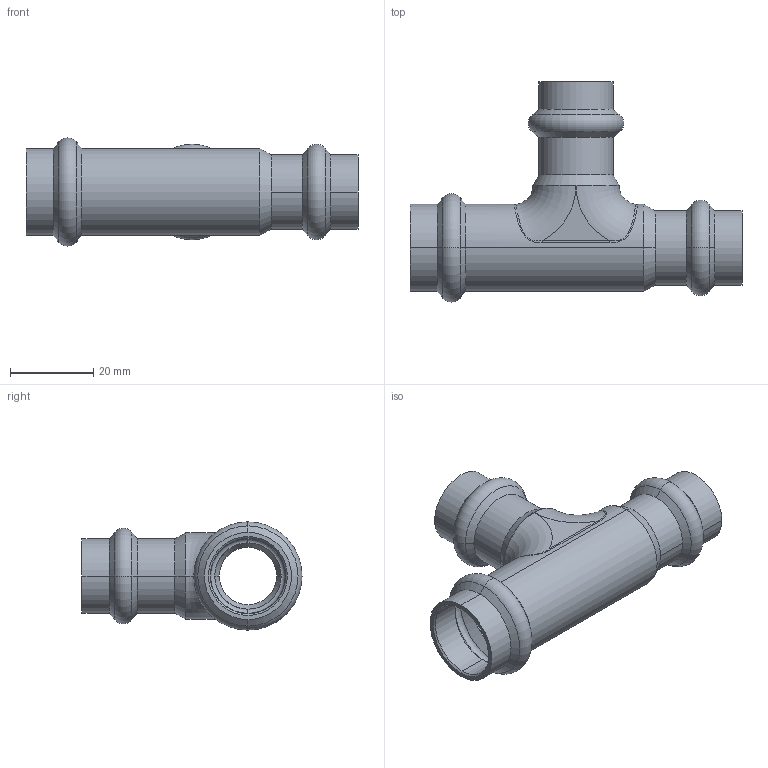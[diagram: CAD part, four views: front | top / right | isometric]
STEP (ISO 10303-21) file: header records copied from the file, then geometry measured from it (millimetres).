
FILE_DESCRIPTION (( 'STEP AP203' ), '1' );
FILE_NAME ('SP5130 Ø18-15-15.STEP', '2017-04-24T13:08:00', ( '' ), ( '' ), 'SwSTEP 2.0', 'SolidWorks 2016', '' );
FILE_SCHEMA (( 'CONFIG_CONTROL_DESIGN' ));
Length unit declared in the file: millimetre
Products named in the file (1): SP5130 Ø18-15-15
Bounding box: 80 x 53.05 x 26.1 mm (x, y, z)
Volume: 11972.8 mm3; surface area: 13578 mm2
Topology: 1 solids, 1 shells, 106 faces, 232 edges, 126 vertices
Faces by surface type: cone 42, cylinder 34, torus 18, bspline 6, plane 6
Entity records: 4311 total; most frequent: CARTESIAN_POINT 1895, DIRECTION 552, ORIENTED_EDGE 456, AXIS2_PLACEMENT_3D 237, EDGE_CURVE 228, CIRCLE 136, VERTEX_POINT 126, EDGE_LOOP 112
